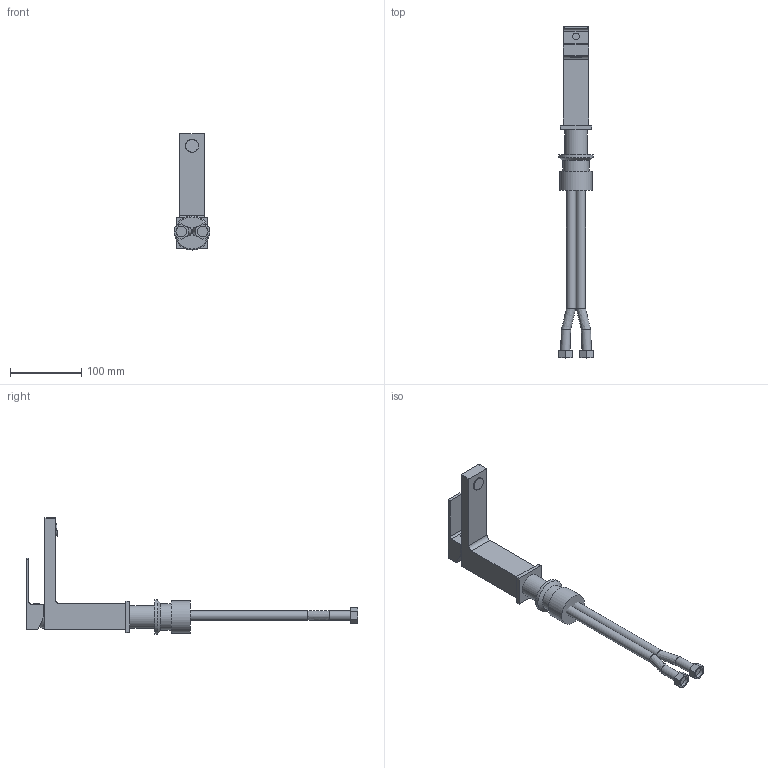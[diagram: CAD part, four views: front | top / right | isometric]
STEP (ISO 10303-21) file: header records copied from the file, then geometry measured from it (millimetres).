
FILE_DESCRIPTION(/* description */ ('CANTO bateria umywalkowa niska BRUSHED GOLD'),/* implementation_level */ '2;1');
FILE_NAME(/* name */ 'C:\Nextcloud\02_biblioteki_cad\Valvex\Projekt\PROJECTS\Eksport\ETAP 7\CANTO\pochodne\2420450\2420450.stp',/* time_stamp */ '2022-09-27T13:47:18+02:00',/* author */ ('Cadventure'),/* organization */ (''),/* preprocessor_version */ 'ST-DEVELOPER v18.1',/* originating_system */ 'Autodesk Inventor 2022',/* authorisation */ '');
FILE_SCHEMA (('AUTOMOTIVE_DESIGN { 1 0 10303 214 3 1 1 }'));
Length unit declared in the file: millimetre
Products named in the file (1): 2420450
Bounding box: 49.2 x 465 x 162.75 mm (x, y, z)
Volume: 490266.2 mm3; surface area: 97768.5 mm2
Topology: 5 solids, 5 shells, 75 faces, 165 edges, 110 vertices
Faces by surface type: plane 49, cylinder 20, bspline 5, cone 1
Full cylindrical faces by diameter (mm): 9 x1, 13 x2, 15 x2, 18 x1, 32 x1, 37 x1, 45 x1, 48 x1
Entity records: 2275 total; most frequent: CARTESIAN_POINT 449, DIRECTION 356, ORIENTED_EDGE 330, EDGE_CURVE 165, AXIS2_PLACEMENT_3D 124, VERTEX_POINT 110, LINE 108, VECTOR 108
